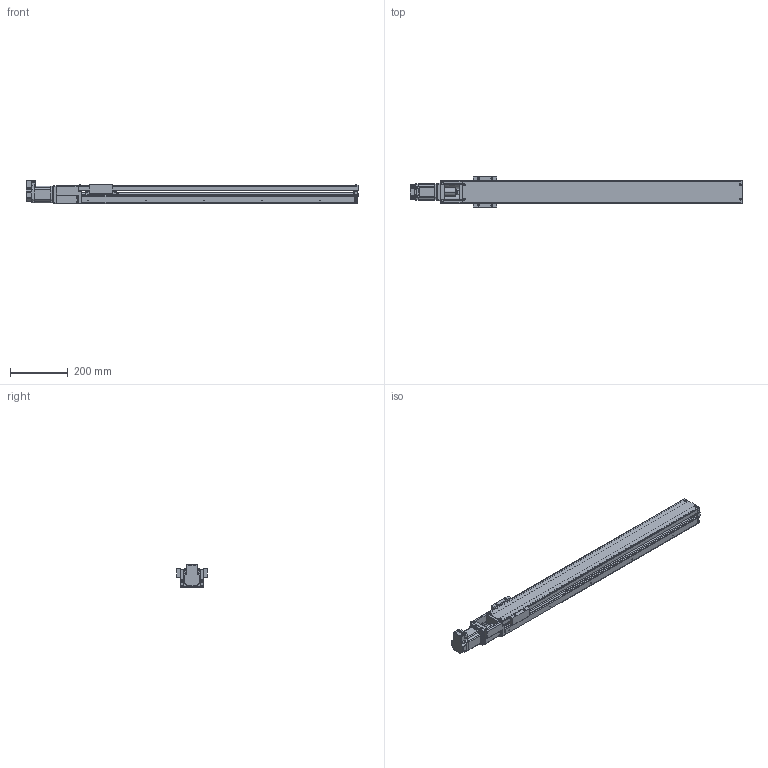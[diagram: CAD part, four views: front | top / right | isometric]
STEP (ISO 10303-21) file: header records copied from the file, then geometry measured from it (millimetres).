
FILE_DESCRIPTION(('FreeCAD Model'),'2;1');
FILE_NAME('Open CASCADE Shape Model','2023-07-31T10:03:48',('Author'),( ''),'Open CASCADE STEP processor 7.5','FreeCAD','Unknown');
FILE_SCHEMA(('AUTOMOTIVE_DESIGN { 1 0 10303 214 1 1 1 1 }'));
Length unit declared in the file: millimetre
Products named in the file (60): SCKR6A_025_800_B; Shapes058; Shapes059; Shapes060; Shapes061; Shapes062; Shapes063; Shapes064; Shapes065; Shapes066; Shapes067; Shapes068; Shapes069; Shapes070; Shapes071; Shapes072; Shapes073; Shapes074; Shapes075; Shapes076; Shapes077; Shapes078; Shapes079; Shapes080; Shapes081; Shapes082; Shapes083; Shapes084; Shapes085; Shapes086; Shapes087; Shapes088; Shapes089; Shapes090; Shapes091; Shapes092; Shapes093; Shapes094; Shapes095; Shapes096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
Assembly tree (59 placements, depth 2):
  SCKR6A_025_800_B
    Shapes058
    Shapes059
    Shapes060
    Shapes061
    Shapes062
    Shapes063
    Shapes064
    Shapes065
    Shapes066
    Shapes067
    Shapes068
    Shapes069
    Shapes070
    Shapes071
    Shapes072
    Shapes073
    Shapes074
    Shapes075
    Shapes076
    Shapes077
    Shapes078
    Shapes079
    Shapes080
    Shapes081
    Shapes082
    Shapes083
    Shapes084
    Shapes085
    Shapes086
    Shapes087
    Shapes088
    Shapes089
    Shapes090
    Shapes091
    Shapes092
    Shapes093
    Shapes094
    Shapes095
    Shapes096
    Shapes097
    Shapes098
    Shapes099
    Shapes100
    Shapes101
    Shapes102
    Shapes103
    Shapes104
    Shapes105
    Shapes106
    Shapes107
    Shapes108
    Shapes109
    Shapes110
    Shapes111
    Shapes112
    Shapes113
    Shapes114
    KR45H-SliderCS
    KR45H-Slider SpacerCS
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Bounding box: 1145.01 x 104 x 82.36 mm (x, y, z)
Volume: 2668491.7 mm3; surface area: 715416.5 mm2
Topology: 59 solids, 59 shells, 2387 faces, 5876 edges, 3609 vertices
Faces by surface type: cylinder 934, plane 836, torus 384, cone 130, bspline 89, sphere 14
Entity records: 165414 total; most frequent: CARTESIAN_POINT 44490, DIRECTION 23744, LINE 12890, VECTOR 12890, ORIENTED_EDGE 11632, PCURVE 11632, DEFINITIONAL_REPRESENTATION 11632, EDGE_CURVE 5816
